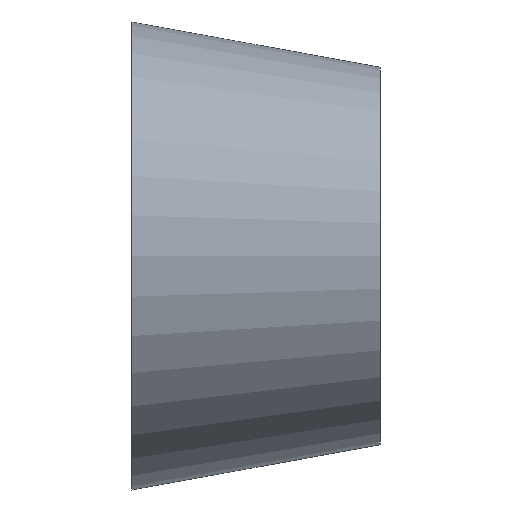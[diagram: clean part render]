
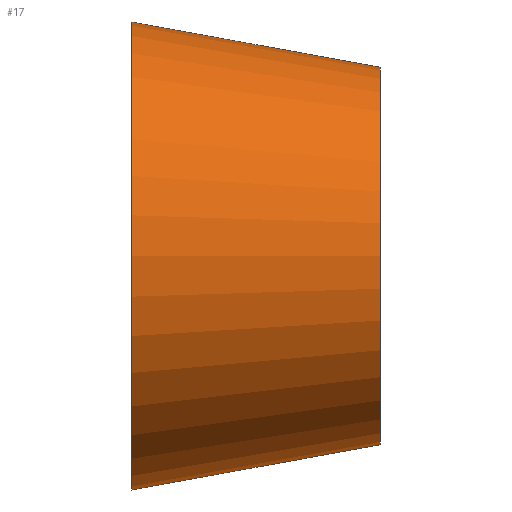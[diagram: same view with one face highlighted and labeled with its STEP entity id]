
A CAD part, front view. The second image highlights one B-rep face of the part: STEP entity #17.
In plain terms, the highlighted free-form (B-spline) face has degree [11, 1] with [22, 2] control points.
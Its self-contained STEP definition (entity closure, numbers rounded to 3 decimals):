
#17 = ADVANCED_FACE('',(#18),#31,.T.);
#18 = FACE_BOUND('',#19,.T.);
#19 = EDGE_LOOP('',(#20,#94,#116,#143));
#20 = ORIENTED_EDGE('',*,*,#21,.T.);
#21 = EDGE_CURVE('',#22,#22,#24,.T.);
#22 = VERTEX_POINT('',#23);
#23 = CARTESIAN_POINT('',(0.,64.5,0.));
#24 = SURFACE_CURVE('',#25,(#30,#82),.PCURVE_S1.);
#25 = CIRCLE('',#26,64.5);
#26 = AXIS2_PLACEMENT_3D('',#27,#28,#29);
#27 = CARTESIAN_POINT('',(0.,0.,0.));
#28 = DIRECTION('',(1.,0.,0.));
#29 = DIRECTION('',(0.,1.,0.));
#30 = PCURVE('',#31,#76);
#31 = B_SPLINE_SURFACE_WITH_KNOTS('',11,1,(
    (#32,#33)
    ,(#34,#35)
    ,(#36,#37)
    ,(#38,#39)
    ,(#40,#41)
    ,(#42,#43)
    ,(#44,#45)
    ,(#46,#47)
    ,(#48,#49)
    ,(#50,#51)
    ,(#52,#53)
    ,(#54,#55)
    ,(#56,#57)
    ,(#58,#59)
    ,(#60,#61)
    ,(#62,#63)
    ,(#64,#65)
    ,(#66,#67)
    ,(#68,#69)
    ,(#70,#71)
    ,(#72,#73)
    ,(#74,#75
    )),.UNSPECIFIED.,.T.,.F.,.F.,(12,10,12),(2,2),(0.,3.142,
    6.283),(0.,1.),.UNSPECIFIED.);
#32 = CARTESIAN_POINT('',(0.,64.5,0.));
#33 = CARTESIAN_POINT('',(68.5,39.5,0.));
#34 = CARTESIAN_POINT('',(0.,64.5,18.421));
#35 = CARTESIAN_POINT('',(68.5,39.5,
    14.851));
#36 = CARTESIAN_POINT('',(0.,58.713,36.842));
#37 = CARTESIAN_POINT('',(68.5,34.834,
    29.702));
#38 = CARTESIAN_POINT('',(0.,47.138,53.243));
#39 = CARTESIAN_POINT('',(68.5,25.503,
    42.925));
#40 = CARTESIAN_POINT('',(0.,30.57,65.604));
#41 = CARTESIAN_POINT('',(68.5,12.146,
    52.89));
#42 = CARTESIAN_POINT('',(0.,10.595,72.261));
#43 = CARTESIAN_POINT('',(68.5,-3.959,
    58.257));
#44 = CARTESIAN_POINT('',(0.,-10.595,72.261));
#45 = CARTESIAN_POINT('',(68.5,-21.041,
    58.257));
#46 = CARTESIAN_POINT('',(0.,-30.57,65.604));
#47 = CARTESIAN_POINT('',(68.5,-37.146,
    52.89));
#48 = CARTESIAN_POINT('',(0.,-47.138,53.243));
#49 = CARTESIAN_POINT('',(68.5,-50.503,
    42.925));
#50 = CARTESIAN_POINT('',(0.,-58.713,36.842));
#51 = CARTESIAN_POINT('',(68.5,-59.834,
    29.702));
#52 = CARTESIAN_POINT('',(0.,-64.5,18.421));
#53 = CARTESIAN_POINT('',(68.5,-64.5,14.851));
#54 = CARTESIAN_POINT('',(0.,-64.5,-18.421));
#55 = CARTESIAN_POINT('',(68.5,-64.5,-14.851));
#56 = CARTESIAN_POINT('',(0.,-58.713,-36.842));
#57 = CARTESIAN_POINT('',(68.5,-59.834,-29.702
    ));
#58 = CARTESIAN_POINT('',(0.,-47.138,-53.243));
#59 = CARTESIAN_POINT('',(68.5,-50.503,-42.925
    ));
#60 = CARTESIAN_POINT('',(0.,-30.57,-65.604));
#61 = CARTESIAN_POINT('',(68.5,-37.146,
    -52.89));
#62 = CARTESIAN_POINT('',(0.,-10.595,-72.261));
#63 = CARTESIAN_POINT('',(68.5,-21.041,-58.257
    ));
#64 = CARTESIAN_POINT('',(0.,10.595,-72.261));
#65 = CARTESIAN_POINT('',(68.5,-3.959,
    -58.257));
#66 = CARTESIAN_POINT('',(0.,30.57,-65.604));
#67 = CARTESIAN_POINT('',(68.5,12.146,
    -52.89));
#68 = CARTESIAN_POINT('',(0.,47.138,-53.243));
#69 = CARTESIAN_POINT('',(68.5,25.503,-42.925
    ));
#70 = CARTESIAN_POINT('',(0.,58.713,-36.842));
#71 = CARTESIAN_POINT('',(68.5,34.834,
    -29.702));
#72 = CARTESIAN_POINT('',(0.,64.5,-18.421));
#73 = CARTESIAN_POINT('',(68.5,39.5,-14.851));
#74 = CARTESIAN_POINT('',(0.,64.5,0.));
#75 = CARTESIAN_POINT('',(68.5,39.5,0.));
#76 = DEFINITIONAL_REPRESENTATION('',(#77),#81);
#77 = LINE('',#78,#79);
#78 = CARTESIAN_POINT('',(0.,0.));
#79 = VECTOR('',#80,1.);
#80 = DIRECTION('',(1.,0.));
#81 = ( GEOMETRIC_REPRESENTATION_CONTEXT(2) 
PARAMETRIC_REPRESENTATION_CONTEXT() REPRESENTATION_CONTEXT('2D SPACE',''
  ) );
#82 = PCURVE('',#83,#88);
#83 = PLANE('',#84);
#84 = AXIS2_PLACEMENT_3D('',#85,#86,#87);
#85 = CARTESIAN_POINT('',(0.,0.,0.));
#86 = DIRECTION('',(1.,0.,0.));
#87 = DIRECTION('',(0.,1.,0.));
#88 = DEFINITIONAL_REPRESENTATION('',(#89),#93);
#89 = CIRCLE('',#90,64.5);
#90 = AXIS2_PLACEMENT_2D('',#91,#92);
#91 = CARTESIAN_POINT('',(0.,0.));
#92 = DIRECTION('',(1.,0.));
#93 = ( GEOMETRIC_REPRESENTATION_CONTEXT(2) 
PARAMETRIC_REPRESENTATION_CONTEXT() REPRESENTATION_CONTEXT('2D SPACE',''
  ) );
#94 = ORIENTED_EDGE('',*,*,#95,.T.);
#95 = EDGE_CURVE('',#22,#96,#98,.T.);
#96 = VERTEX_POINT('',#97);
#97 = CARTESIAN_POINT('',(68.5,39.5,0.));
#98 = SEAM_CURVE('',#99,(#102,#109),.PCURVE_S1.);
#99 = B_SPLINE_CURVE_WITH_KNOTS('',1,(#100,#101),.UNSPECIFIED.,.F.,.F.,(
    2,2),(0.,1.),.PIECEWISE_BEZIER_KNOTS.);
#100 = CARTESIAN_POINT('',(0.,64.5,0.));
#101 = CARTESIAN_POINT('',(68.5,39.5,0.));
#102 = PCURVE('',#31,#103);
#103 = DEFINITIONAL_REPRESENTATION('',(#104),#108);
#104 = LINE('',#105,#106);
#105 = CARTESIAN_POINT('',(6.283,0.));
#106 = VECTOR('',#107,1.);
#107 = DIRECTION('',(0.,1.));
#108 = ( GEOMETRIC_REPRESENTATION_CONTEXT(2) 
PARAMETRIC_REPRESENTATION_CONTEXT() REPRESENTATION_CONTEXT('2D SPACE',''
  ) );
#109 = PCURVE('',#31,#110);
#110 = DEFINITIONAL_REPRESENTATION('',(#111),#115);
#111 = LINE('',#112,#113);
#112 = CARTESIAN_POINT('',(0.,0.));
#113 = VECTOR('',#114,1.);
#114 = DIRECTION('',(0.,1.));
#115 = ( GEOMETRIC_REPRESENTATION_CONTEXT(2) 
PARAMETRIC_REPRESENTATION_CONTEXT() REPRESENTATION_CONTEXT('2D SPACE',''
  ) );
#116 = ORIENTED_EDGE('',*,*,#117,.F.);
#117 = EDGE_CURVE('',#96,#96,#118,.T.);
#118 = SURFACE_CURVE('',#119,(#124,#131),.PCURVE_S1.);
#119 = CIRCLE('',#120,52.);
#120 = AXIS2_PLACEMENT_3D('',#121,#122,#123);
#121 = CARTESIAN_POINT('',(68.5,-12.5,0.));
#122 = DIRECTION('',(1.,0.,0.));
#123 = DIRECTION('',(0.,1.,0.));
#124 = PCURVE('',#31,#125);
#125 = DEFINITIONAL_REPRESENTATION('',(#126),#130);
#126 = LINE('',#127,#128);
#127 = CARTESIAN_POINT('',(0.,1.));
#128 = VECTOR('',#129,1.);
#129 = DIRECTION('',(1.,0.));
#130 = ( GEOMETRIC_REPRESENTATION_CONTEXT(2) 
PARAMETRIC_REPRESENTATION_CONTEXT() REPRESENTATION_CONTEXT('2D SPACE',''
  ) );
#131 = PCURVE('',#132,#137);
#132 = PLANE('',#133);
#133 = AXIS2_PLACEMENT_3D('',#134,#135,#136);
#134 = CARTESIAN_POINT('',(68.5,-12.5,0.));
#135 = DIRECTION('',(1.,0.,0.));
#136 = DIRECTION('',(0.,1.,0.));
#137 = DEFINITIONAL_REPRESENTATION('',(#138),#142);
#138 = CIRCLE('',#139,52.);
#139 = AXIS2_PLACEMENT_2D('',#140,#141);
#140 = CARTESIAN_POINT('',(0.,0.));
#141 = DIRECTION('',(1.,0.));
#142 = ( GEOMETRIC_REPRESENTATION_CONTEXT(2) 
PARAMETRIC_REPRESENTATION_CONTEXT() REPRESENTATION_CONTEXT('2D SPACE',''
  ) );
#143 = ORIENTED_EDGE('',*,*,#95,.F.);
